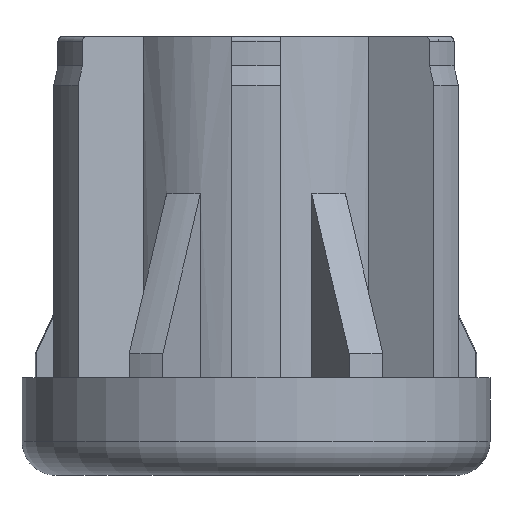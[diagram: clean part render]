
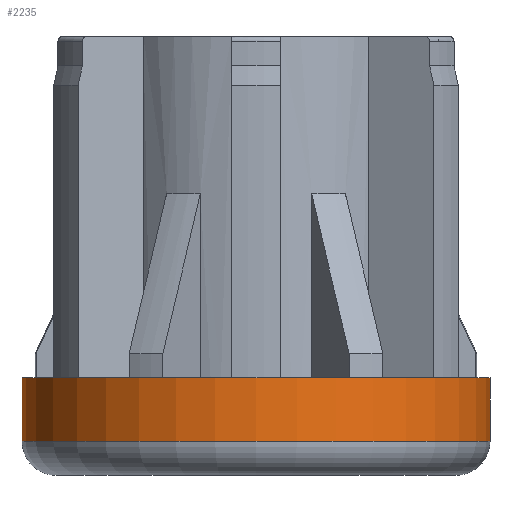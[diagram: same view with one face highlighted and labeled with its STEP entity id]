
A CAD part, front view. The second image highlights one B-rep face of the part: STEP entity #2235.
In plain terms, the highlighted cylindrical face has radius 24 mm (diameter 48 mm), a partial arc.
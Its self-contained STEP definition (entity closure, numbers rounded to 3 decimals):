
#22 = LINE ( 'NONE', #246, #379 ) ;
#86 = CARTESIAN_POINT ( 'NONE',  ( 0., 0., -10. ) ) ;
#156 = EDGE_CURVE ( 'NONE', #869, #2151, #1576, .T. ) ;
#246 = CARTESIAN_POINT ( 'NONE',  ( 24., 0., -10. ) ) ;
#367 = ORIENTED_EDGE ( 'NONE', *, *, #156, .F. ) ;
#379 = VECTOR ( 'NONE', #1506, 1000. ) ;
#393 = FACE_OUTER_BOUND ( 'NONE', #2252, .T. ) ;
#435 = AXIS2_PLACEMENT_3D ( 'NONE', #86, #1818, #1100 ) ;
#450 = EDGE_CURVE ( 'NONE', #687, #1025, #22, .T. ) ;
#455 = CIRCLE ( 'NONE', #2583, 24. ) ;
#541 = AXIS2_PLACEMENT_3D ( 'NONE', #3175, #1417, #654 ) ;
#654 = DIRECTION ( 'NONE',  ( 1., 0., 0. ) ) ;
#687 = VERTEX_POINT ( 'NONE', #2056 ) ;
#790 = EDGE_CURVE ( 'NONE', #2151, #1025, #2384, .T. ) ;
#855 = VECTOR ( 'NONE', #1355, 1000. ) ;
#869 = VERTEX_POINT ( 'NONE', #1806 ) ;
#1025 = VERTEX_POINT ( 'NONE', #1840 ) ;
#1100 = DIRECTION ( 'NONE',  ( 1., 0., 0. ) ) ;
#1122 = EDGE_CURVE ( 'NONE', #869, #687, #455, .T. ) ;
#1136 = ORIENTED_EDGE ( 'NONE', *, *, #790, .F. ) ;
#1305 = ORIENTED_EDGE ( 'NONE', *, *, #1122, .T. ) ;
#1333 = CARTESIAN_POINT ( 'NONE',  ( -24., 0., 0. ) ) ;
#1355 = DIRECTION ( 'NONE',  ( 0., 0., 1. ) ) ;
#1417 = DIRECTION ( 'NONE',  ( 0., 0., 1. ) ) ;
#1506 = DIRECTION ( 'NONE',  ( 0., 0., 1. ) ) ;
#1522 = DIRECTION ( 'NONE',  ( 1., 0., 0. ) ) ;
#1576 = LINE ( 'NONE', #2858, #855 ) ;
#1806 = CARTESIAN_POINT ( 'NONE',  ( -24., 0., -6.5 ) ) ;
#1818 = DIRECTION ( 'NONE',  ( 0., 0., 1. ) ) ;
#1840 = CARTESIAN_POINT ( 'NONE',  ( 24., 0., 0. ) ) ;
#1853 = CYLINDRICAL_SURFACE ( 'NONE', #435, 24. ) ;
#2056 = CARTESIAN_POINT ( 'NONE',  ( 24., 0., -6.5 ) ) ;
#2151 = VERTEX_POINT ( 'NONE', #1333 ) ;
#2231 = DIRECTION ( 'NONE',  ( 0., 0., 1. ) ) ;
#2235 = ADVANCED_FACE ( 'NONE', ( #393 ), #1853, .T. ) ;
#2252 = EDGE_LOOP ( 'NONE', ( #367, #1305, #3159, #1136 ) ) ;
#2384 = CIRCLE ( 'NONE', #541, 24. ) ;
#2509 = CARTESIAN_POINT ( 'NONE',  ( 0., 0., -6.5 ) ) ;
#2583 = AXIS2_PLACEMENT_3D ( 'NONE', #2509, #2231, #1522 ) ;
#2858 = CARTESIAN_POINT ( 'NONE',  ( -24., 0., -10. ) ) ;
#3159 = ORIENTED_EDGE ( 'NONE', *, *, #450, .T. ) ;
#3175 = CARTESIAN_POINT ( 'NONE',  ( 0., 0., 0. ) ) ;
